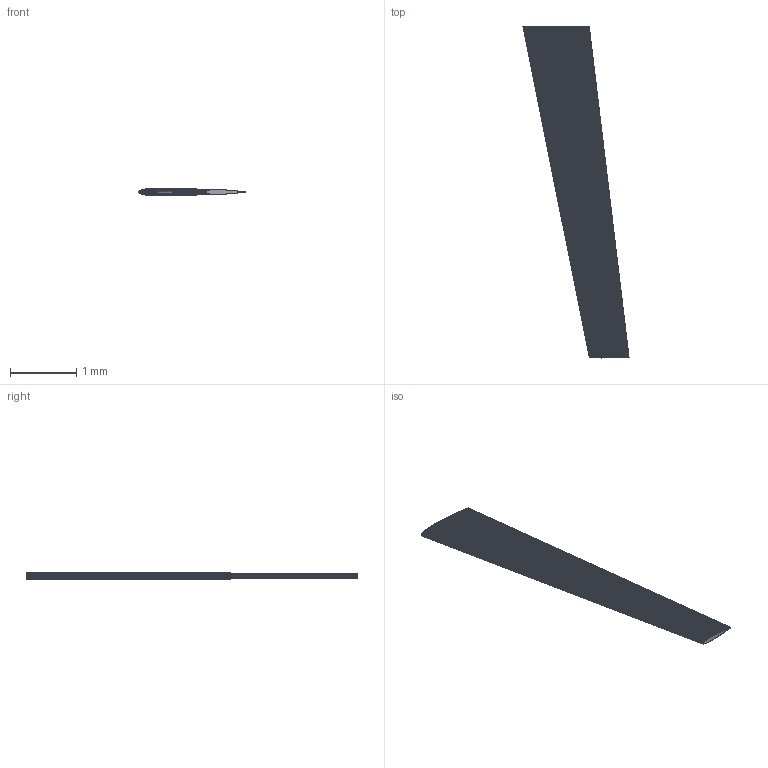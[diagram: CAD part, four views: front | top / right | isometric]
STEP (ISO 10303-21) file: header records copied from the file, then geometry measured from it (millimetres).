
FILE_DESCRIPTION(('Open CASCADE Model'),'2;1');
FILE_NAME('Open CASCADE Shape Model','2026-03-20T02:46:49',('Author'),( 'Open CASCADE'),'Open CASCADE STEP processor 7.8','Open CASCADE 7.8' ,'Unknown');
FILE_SCHEMA(('AUTOMOTIVE_DESIGN { 1 0 10303 214 1 1 1 1 }'));
Length unit declared in the file: millimetre
Products named in the file (1): Open CASCADE STEP translator 7.8 1
Bounding box: 1.6 x 5 x 0.12 mm (x, y, z)
Volume: 0.3 mm3; surface area: 8.3 mm2
Topology: 1 solids, 1 shells, 363 faces, 1083 edges, 722 vertices
Faces by surface type: bspline 361, plane 2
Entity records: 25304 total; most frequent: CARTESIAN_POINT 6140, DIRECTION 2533, LINE 2527, VECTOR 2527, ORIENTED_EDGE 2166, PCURVE 2166, DEFINITIONAL_REPRESENTATION 2166, EDGE_CURVE 1083
